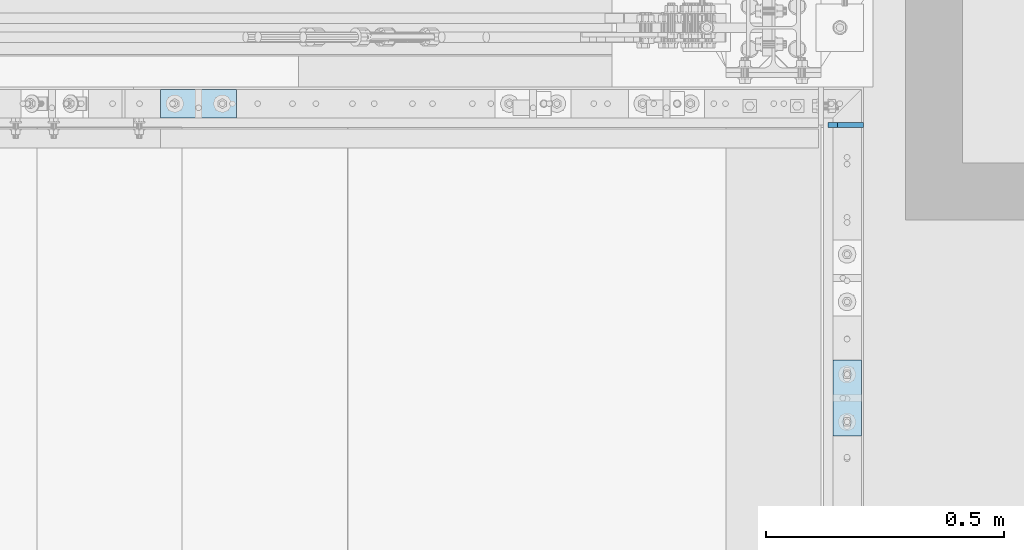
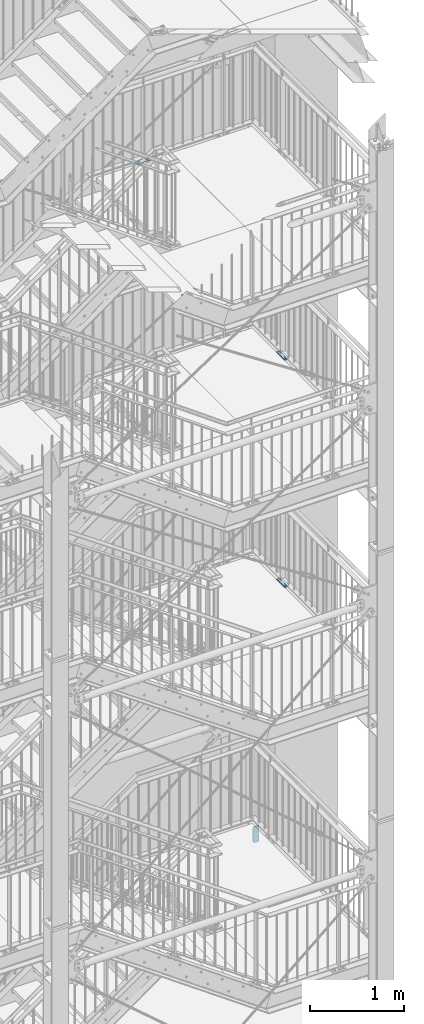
# One storey, part 212 of 831: 4 plates, 8 openings.
"""IFC2X3 building model written with IfcOpenShell, lengths in millimetres."""

from ifc_helpers import new_model, entity, si_unit, converted_unit, point, frame, frame_2d, origin, origin_with_axes, place, context, project, spatial, polyline, circle_curve, line_curve, trimmed, segment, composite_curve, outline, extrude, material, layer, layer_set, element, save


model = new_model("IFC2X3")

# Units and contexts
model_context = context("Model", 3, precision=1e-09, world=origin_with_axes())
ifc_project = project(units=[si_unit("LENGTHUNIT", "METRE", prefix="MILLI"), si_unit("AREAUNIT", "SQUARE_METRE"), si_unit("VOLUMEUNIT", "CUBIC_METRE"), converted_unit("PLANEANGLEUNIT", "DEGREE", entity("IfcPlaneAngleMeasure", 0.01745329), si_unit("PLANEANGLEUNIT", "RADIAN"), dimensions=[0, 0, 0, 0, 0, 0, 0])], contexts=[model_context])

# Site, building, storey
site_placement = place(None, origin_with_axes())
site = spatial("IfcSite", under=ifc_project, at=site_placement, Name="Site", CompositionType="ELEMENT")
building_placement = place(site_placement, origin_with_axes())
building = spatial("IfcBuilding", under=site, at=building_placement, Name="Struktur 1", CompositionType="ELEMENT")
storey_placement = place(building_placement, origin_with_axes())
storey = spatial("IfcBuildingStorey", under=building, at=storey_placement, Name="Default Storey", CompositionType="ELEMENT", Elevation=0.0)

# Plate, openings
ifc_material = material(Name="S235JR")
ifc_layer_1 = layer(ifc_material, 20.0)
ifc_layer_set_1 = layer_set([ifc_layer_1], Name="S235JR")
plate_1_placement = place(None, frame((7736.713831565, 7386.736971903, 11265.5000003), z_axis=(0.0, 0.0, 1.0), x_axis=(-1.0, 0.0, 0.0)))
plate_1 = element("IfcPlate", 1, at=plate_1_placement, inside=storey, material=ifc_layer_set_1, Name="Plate#503", ObjectType="Plate#503", context=model_context, shape_type="SweptSolid", body=[
    extrude(outline(polyline([(0.0, 0.0), (160.0, 0.0), (160.0, 60.0), (0.0, 60.0), (0.0, 0.0)])), origin_with_axes(), (0.0, 0.0, 1.0), 20.0),
])
opening_1_placement = place(plate_1_placement, frame((38.0, 37.001, 20.5), z_axis=(0.0, 0.0, 1.0), x_axis=(-1.0, 0.0, 0.0)))
element("IfcOpeningElement", 2, at=opening_1_placement, cuts=plate_1, ObjectType="Opening", context=model_context, shape_type="SweptSolid", body=[
    extrude(outline(composite_curve([segment(trimmed(line_curve((0.0, 0.0), (1.0, 0.0), 16.0), [point((0.0, 0.0))], [point((16.0, 0.0))], True, "CARTESIAN"), True, "CONTINUOUS"), segment(trimmed(circle_curve(frame_2d((16.0, 7.001), x_axis=(1.0, 0.0)), 7.001), [point((16.0, 0.0))], [point((16.0, 14.002))], True, "CARTESIAN"), True, "CONTINUOUS"), segment(trimmed(line_curve((16.0, 14.002), (-1.0, 0.0), 16.0), [point((16.0, 14.002))], [point((0.0, 14.002))], True, "CARTESIAN"), True, "CONTINUOUS"), segment(trimmed(circle_curve(frame_2d((0.0, 7.001), x_axis=(1.0, 0.0)), 7.001), [point((0.0, 14.002))], [point((0.0, 0.0))], True, "CARTESIAN"), True, "CONTINUOUS")], self_intersect=False)), origin(), (0.0, 0.0, -1.0), 21.0),
])
opening_2_placement = place(plate_1_placement, frame((138.0, 37.001, 20.5), z_axis=(0.0, 0.0, 1.0), x_axis=(-1.0, 0.0, 0.0)))
element("IfcOpeningElement", 3, at=opening_2_placement, cuts=plate_1, ObjectType="Opening", context=model_context, shape_type="SweptSolid", body=[
    extrude(outline(composite_curve([segment(trimmed(line_curve((0.0, 0.0), (1.0, 0.0), 16.0), [point((0.0, 0.0))], [point((16.0, 0.0))], True, "CARTESIAN"), True, "CONTINUOUS"), segment(trimmed(circle_curve(frame_2d((16.0, 7.001), x_axis=(1.0, 0.0)), 7.001), [point((16.0, 0.0))], [point((16.0, 14.002))], True, "CARTESIAN"), True, "CONTINUOUS"), segment(trimmed(line_curve((16.0, 14.002), (-1.0, 0.0), 16.0), [point((16.0, 14.002))], [point((0.0, 14.002))], True, "CARTESIAN"), True, "CONTINUOUS"), segment(trimmed(circle_curve(frame_2d((0.0, 7.001), x_axis=(1.0, 0.0)), 7.001), [point((0.0, 14.002))], [point((0.0, 0.0))], True, "CARTESIAN"), True, "CONTINUOUS")], self_intersect=False)), origin(), (0.0, 0.0, -1.0), 21.0),
])

ifc_layer_2 = layer(ifc_material, 10.0)
ifc_layer_set_2 = layer_set([ifc_layer_2], Name="S235JR")
plate_2_placement = place(None, frame((8981.213402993, 7306.736971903, 2163.907793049), z_axis=(0.0, 1.0, 0.0), x_axis=(0.996815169, 0.0, 0.079746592)))
plate_2 = element("IfcPlate", 4, at=plate_2_placement, inside=storey, material=ifc_layer_set_2, Name="Stiffener#1", ObjectType="Stiffener#1", context=model_context, shape_type="SweptSolid", body=[
    extrude(outline(polyline([(0.0, 0.0), (75.239625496, 0.0), (57.877952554, 217.017159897), (-16.404697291, 205.05517107), (0.0, 0.0)])), origin_with_axes(), (0.0, 0.0, 1.0), 10.0),
])
opening_3_placement = place(plate_2_placement, frame((0.0, 0.0, -0.01), z_axis=(0.0, 0.0, 1.0), x_axis=(1.0, 0.0, 0.0)))
element("IfcOpeningElement", 5, at=opening_3_placement, cuts=plate_2, ObjectType="Opening", context=model_context, shape_type="SweptSolid", body=[
    extrude(outline(polyline([(-16.404697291, 205.05517107), (-14.809765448, 185.118867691), (3.34092195, 208.23487558), (-16.404697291, 205.05517107)])), origin(), (0.0, 0.0, 1.0), 10.02),
])
opening_4_placement = place(plate_2_placement, frame((0.0, 0.0, -0.01), z_axis=(0.0, 0.0, 1.0), x_axis=(1.0, 0.0, 0.0)))
element("IfcOpeningElement", 6, at=opening_4_placement, cuts=plate_2, ObjectType="Opening", context=model_context, shape_type="SweptSolid", body=[
    extrude(outline(polyline([(0.0, 0.0), (20.0, 0.0), (-1.594931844, 19.936303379), (0.0, 0.0)])), origin(), (0.0, 0.0, 1.0), 10.02),
])

plate_3_placement = place(None, frame((9051.713402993, 6656.736257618, 5674.8947367), z_axis=(0.0, 0.0, 1.0), x_axis=(0.0, 1.0, 0.0)))
plate_3 = element("IfcPlate", 7, at=plate_3_placement, inside=storey, material=ifc_layer_set_1, Name="Plate#505", ObjectType="Plate#505", context=model_context, shape_type="SweptSolid", body=[
    extrude(outline(polyline([(0.0, 0.0), (160.0, 0.0), (160.0, 60.0), (0.0, 60.0), (0.0, 0.0)])), origin_with_axes(), (0.0, 0.0, 1.0), 20.0),
])
opening_5_placement = place(plate_3_placement, frame((38.0, 37.001, 20.5), z_axis=(0.0, 0.0, 1.0), x_axis=(-1.0, 0.0, 0.0)))
element("IfcOpeningElement", 8, at=opening_5_placement, cuts=plate_3, ObjectType="Opening", context=model_context, shape_type="SweptSolid", body=[
    extrude(outline(composite_curve([segment(trimmed(line_curve((0.0, 0.0), (1.0, 0.0), 16.0), [point((0.0, 0.0))], [point((16.0, 0.0))], True, "CARTESIAN"), True, "CONTINUOUS"), segment(trimmed(circle_curve(frame_2d((16.0, 7.001), x_axis=(1.0, 0.0)), 7.001), [point((16.0, 0.0))], [point((16.0, 14.002))], True, "CARTESIAN"), True, "CONTINUOUS"), segment(trimmed(line_curve((16.0, 14.002), (-1.0, 0.0), 16.0), [point((16.0, 14.002))], [point((0.0, 14.002))], True, "CARTESIAN"), True, "CONTINUOUS"), segment(trimmed(circle_curve(frame_2d((0.0, 7.001), x_axis=(1.0, 0.0)), 7.001), [point((0.0, 14.002))], [point((0.0, 0.0))], True, "CARTESIAN"), True, "CONTINUOUS")], self_intersect=False)), origin(), (0.0, 0.0, -1.0), 21.0),
])
opening_6_placement = place(plate_3_placement, frame((138.0, 37.001, 20.5), z_axis=(0.0, 0.0, 1.0), x_axis=(-1.0, 0.0, 0.0)))
element("IfcOpeningElement", 9, at=opening_6_placement, cuts=plate_3, ObjectType="Opening", context=model_context, shape_type="SweptSolid", body=[
    extrude(outline(composite_curve([segment(trimmed(line_curve((0.0, 0.0), (1.0, 0.0), 16.0), [point((0.0, 0.0))], [point((16.0, 0.0))], True, "CARTESIAN"), True, "CONTINUOUS"), segment(trimmed(circle_curve(frame_2d((16.0, 7.001), x_axis=(1.0, 0.0)), 7.001), [point((16.0, 0.0))], [point((16.0, 14.002))], True, "CARTESIAN"), True, "CONTINUOUS"), segment(trimmed(line_curve((16.0, 14.002), (-1.0, 0.0), 16.0), [point((16.0, 14.002))], [point((0.0, 14.002))], True, "CARTESIAN"), True, "CONTINUOUS"), segment(trimmed(circle_curve(frame_2d((0.0, 7.001), x_axis=(1.0, 0.0)), 7.001), [point((0.0, 14.002))], [point((0.0, 0.0))], True, "CARTESIAN"), True, "CONTINUOUS")], self_intersect=False)), origin(), (0.0, 0.0, -1.0), 21.0),
])

plate_4_placement = place(None, frame((9051.713402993, 6656.736257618, 8636.0), z_axis=(0.0, 0.0, 1.0), x_axis=(0.0, 1.0, 0.0)))
plate_4 = element("IfcPlate", 10, at=plate_4_placement, inside=storey, material=ifc_layer_set_1, Name="Plate#505", ObjectType="Plate#505", context=model_context, shape_type="SweptSolid", body=[
    extrude(outline(polyline([(0.0, 0.0), (160.0, 0.0), (160.0, 60.0), (0.0, 60.0), (0.0, 0.0)])), origin_with_axes(), (0.0, 0.0, 1.0), 20.0),
])
opening_7_placement = place(plate_4_placement, frame((38.0, 37.001, 20.5), z_axis=(0.0, 0.0, 1.0), x_axis=(-1.0, 0.0, 0.0)))
element("IfcOpeningElement", 11, at=opening_7_placement, cuts=plate_4, ObjectType="Opening", context=model_context, shape_type="SweptSolid", body=[
    extrude(outline(composite_curve([segment(trimmed(line_curve((0.0, 0.0), (1.0, 0.0), 16.0), [point((0.0, 0.0))], [point((16.0, 0.0))], True, "CARTESIAN"), True, "CONTINUOUS"), segment(trimmed(circle_curve(frame_2d((16.0, 7.001), x_axis=(1.0, 0.0)), 7.001), [point((16.0, 0.0))], [point((16.0, 14.002))], True, "CARTESIAN"), True, "CONTINUOUS"), segment(trimmed(line_curve((16.0, 14.002), (-1.0, 0.0), 16.0), [point((16.0, 14.002))], [point((0.0, 14.002))], True, "CARTESIAN"), True, "CONTINUOUS"), segment(trimmed(circle_curve(frame_2d((0.0, 7.001), x_axis=(1.0, 0.0)), 7.001), [point((0.0, 14.002))], [point((0.0, 0.0))], True, "CARTESIAN"), True, "CONTINUOUS")], self_intersect=False)), origin(), (0.0, 0.0, -1.0), 21.0),
])
opening_8_placement = place(plate_4_placement, frame((138.0, 37.001, 20.5), z_axis=(0.0, 0.0, 1.0), x_axis=(-1.0, 0.0, 0.0)))
element("IfcOpeningElement", 12, at=opening_8_placement, cuts=plate_4, ObjectType="Opening", context=model_context, shape_type="SweptSolid", body=[
    extrude(outline(composite_curve([segment(trimmed(line_curve((0.0, 0.0), (1.0, 0.0), 16.0), [point((0.0, 0.0))], [point((16.0, 0.0))], True, "CARTESIAN"), True, "CONTINUOUS"), segment(trimmed(circle_curve(frame_2d((16.0, 7.001), x_axis=(1.0, 0.0)), 7.001), [point((16.0, 0.0))], [point((16.0, 14.002))], True, "CARTESIAN"), True, "CONTINUOUS"), segment(trimmed(line_curve((16.0, 14.002), (-1.0, 0.0), 16.0), [point((16.0, 14.002))], [point((0.0, 14.002))], True, "CARTESIAN"), True, "CONTINUOUS"), segment(trimmed(circle_curve(frame_2d((0.0, 7.001), x_axis=(1.0, 0.0)), 7.001), [point((0.0, 14.002))], [point((0.0, 0.0))], True, "CARTESIAN"), True, "CONTINUOUS")], self_intersect=False)), origin(), (0.0, 0.0, -1.0), 21.0),
])

save(model, "model.ifc")
